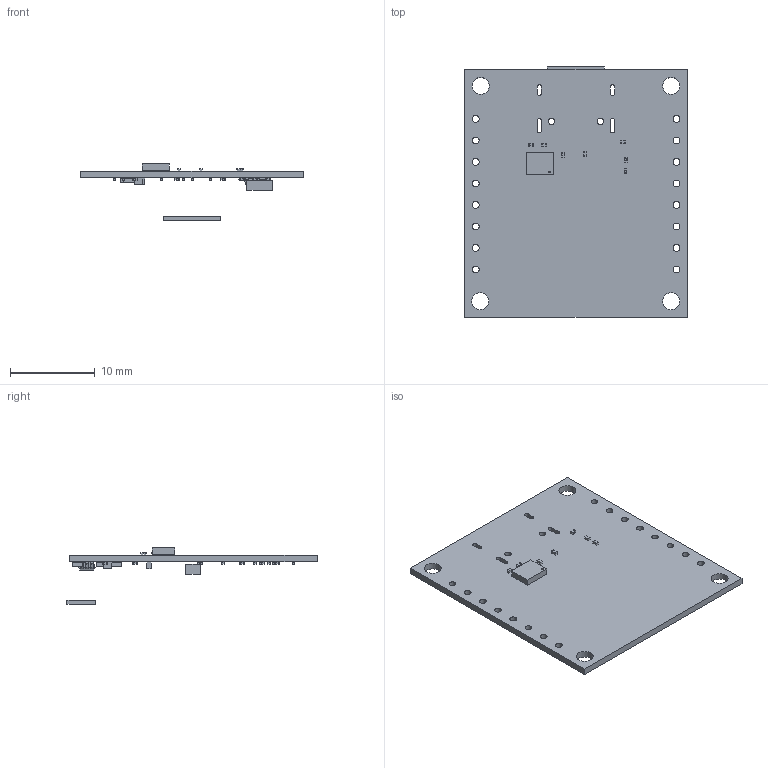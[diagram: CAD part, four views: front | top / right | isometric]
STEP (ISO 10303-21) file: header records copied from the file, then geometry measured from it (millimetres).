
FILE_DESCRIPTION(('Open CASCADE Model'),'2;1');
FILE_NAME('Open CASCADE Shape Model','2025-02-20T14:12:12',('Author'),( 'Open CASCADE'),'Open CASCADE STEP processor 6.8','Open CASCADE 6.8' ,'Unknown');
FILE_SCHEMA(('AUTOMOTIVE_DESIGN { 1 0 10303 214 1 1 1 1 }'));
Length unit declared in the file: millimetre
Products named in the file (56): PCB; Board; C11; User_Library-Chip_Cap_MLCC_0201_(0603); C1; C10; C12; C13; C14; C15; C16; C18; C20; C22; C23; C24; C25; C26; C27; C28; C29; C30; C32; C33; U1; 714423392; Extruded; L3; 714422712; 714422848; 714422984; Q1; 714423120; 714423256; R4; 714423528; R5; 714423664; U4; User_Library-SOT-363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
Assembly tree (79 placements, depth 4):
  PCB
    Board
    C11
      User_Library-Chip_Cap_MLCC_0201_(0603)
    C1
      User_Library-Chip_Cap_MLCC_0201_(0603)
    C10
      User_Library-Chip_Cap_MLCC_0201_(0603)
    C12
      User_Library-Chip_Cap_MLCC_0201_(0603)
    C13
      User_Library-Chip_Cap_MLCC_0201_(0603)
    C14
      User_Library-Chip_Cap_MLCC_0201_(0603)
    C15
      User_Library-Chip_Cap_MLCC_0201_(0603)
    C16
      User_Library-Chip_Cap_MLCC_0201_(0603)
    C18
      User_Library-Chip_Cap_MLCC_0201_(0603)
    C20
      User_Library-Chip_Cap_MLCC_0201_(0603)
    C22
      User_Library-Chip_Cap_MLCC_0201_(0603)
    C23
      User_Library-Chip_Cap_MLCC_0201_(0603)
    C24
      User_Library-Chip_Cap_MLCC_0201_(0603)
    C25
      User_Library-Chip_Cap_MLCC_0201_(0603)
    C26
      User_Library-Chip_Cap_MLCC_0201_(0603)
    C27
      User_Library-Chip_Cap_MLCC_0201_(0603)
    C28
      User_Library-Chip_Cap_MLCC_0201_(0603)
    C29
      User_Library-Chip_Cap_MLCC_0201_(0603)
    C30
      User_Library-Chip_Cap_MLCC_0201_(0603)
    C32
      User_Library-Chip_Cap_MLCC_0201_(0603)
    C33
      User_Library-Chip_Cap_MLCC_0201_(0603)
    U1
      714423392
        Extruded
    L3
      714422712
        Extruded
      714422848
        Extruded
      714422984  x2
        Extruded
    Q1
      714423120  x3
        Extruded
      714423256
        Extruded
    R4
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Bounding box: 26.24 x 29.54 x 6.68 mm (x, y, z)
Volume: 625.9 mm3; surface area: 1819.7 mm2
Topology: 38 solids, 38 shells, 1303 faces, 3147 edges, 1794 vertices
Faces by surface type: plane 541, cylinder 513, bspline 241, sphere 8
Full cylindrical faces by diameter (mm): 0.2 x1, 0.762 x2, 0.8 x16, 2 x4
Entity records: 40560 total; most frequent: CARTESIAN_POINT 21281, DIRECTION 2849, ORIENTED_EDGE 1830, PCURVE 1830, DEFINITIONAL_REPRESENTATION 1830, LINE 1721, VECTOR 1721, EDGE_CURVE 915
